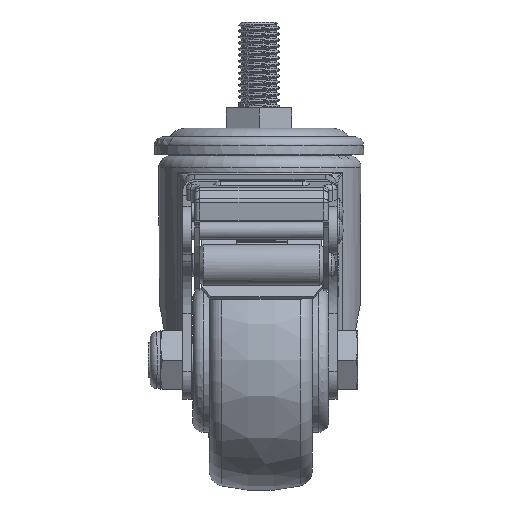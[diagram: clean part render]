
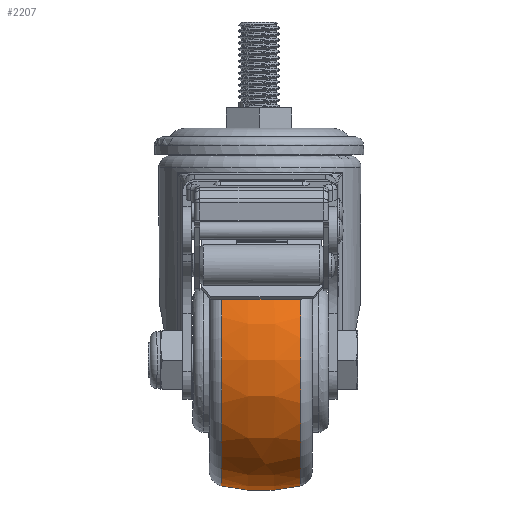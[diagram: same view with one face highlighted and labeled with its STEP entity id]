
A CAD part, left-side view. The second image highlights one B-rep face of the part: STEP entity #2207.
In plain terms, the highlighted free-form (B-spline) face has degree [3, 3] with [4, 7] control points.
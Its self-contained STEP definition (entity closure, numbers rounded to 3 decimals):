
#56=(
BOUNDED_SURFACE()
B_SPLINE_SURFACE(3,3,((#37746,#37747,#37748,#37749,#37750,#37751,#37752),
(#37753,#37754,#37755,#37756,#37757,#37758,#37759),(#37760,#37761,#37762,
#37763,#37764,#37765,#37766),(#37767,#37768,#37769,#37770,#37771,#37772,
#37773)),.UNSPECIFIED.,.F.,.T.,.F.)
B_SPLINE_SURFACE_WITH_KNOTS((4,4),(1,3,3,3,1),(0.,1.),(-0.5,0.,0.5,1.,1.5),
 .UNSPECIFIED.)
GEOMETRIC_REPRESENTATION_ITEM()
RATIONAL_B_SPLINE_SURFACE(((1.,0.333,0.333,1.,0.333,
0.333,1.),(0.982,0.327,0.327,
0.982,0.327,0.327,0.982),
(0.982,0.327,0.327,0.982,
0.327,0.327,0.982),(1.,0.333,
0.333,1.,0.333,0.333,1.)))
REPRESENTATION_ITEM('')
SURFACE()
);
#2207=ADVANCED_FACE('',(#5740,#5741),#56,.T.);
#5333=CIRCLE('',#18786,36.653);
#5334=CIRCLE('',#18788,36.653);
#5740=FACE_BOUND('',#6826,.T.);
#5741=FACE_BOUND('',#6827,.T.);
#6826=EDGE_LOOP('',(#11317));
#6827=EDGE_LOOP('',(#11318));
#11317=ORIENTED_EDGE('',*,*,#16102,.F.);
#11318=ORIENTED_EDGE('',*,*,#16101,.T.);
#13666=VERTEX_POINT('',#37742);
#13667=VERTEX_POINT('',#37745);
#16101=EDGE_CURVE('',#13666,#13666,#5333,.T.);
#16102=EDGE_CURVE('',#13667,#13667,#5334,.T.);
#18786=AXIS2_PLACEMENT_3D('',#37741,#22945,#22946);
#18788=AXIS2_PLACEMENT_3D('',#37744,#22949,#22950);
#22945=DIRECTION('',(0.003,-1.,0.));
#22946=DIRECTION('',(-1.,-0.003,0.));
#22949=DIRECTION('',(0.003,-1.,0.));
#22950=DIRECTION('',(-1.,-0.003,0.));
#37741=CARTESIAN_POINT('',(-34.098,11.037,-98.5));
#37742=CARTESIAN_POINT('',(-70.751,10.914,-98.5));
#37744=CARTESIAN_POINT('',(-34.021,-12.037,-98.5));
#37745=CARTESIAN_POINT('',(-70.673,-12.16,-98.5));
#37746=CARTESIAN_POINT('',(-70.673,-12.16,-98.5));
#37747=CARTESIAN_POINT('',(-70.673,-12.16,-171.805));
#37748=CARTESIAN_POINT('',(2.631,-11.914,-171.805));
#37749=CARTESIAN_POINT('',(2.631,-11.914,-98.5));
#37750=CARTESIAN_POINT('',(2.631,-11.914,-25.195));
#37751=CARTESIAN_POINT('',(-70.673,-12.16,-25.195));
#37752=CARTESIAN_POINT('',(-70.673,-12.16,-98.5));
#37753=CARTESIAN_POINT('',(-72.504,-4.545,-98.5));
#37754=CARTESIAN_POINT('',(-72.504,-4.545,-175.415));
#37755=CARTESIAN_POINT('',(4.411,-4.287,-175.415));
#37756=CARTESIAN_POINT('',(4.411,-4.287,-98.5));
#37757=CARTESIAN_POINT('',(4.411,-4.287,-21.585));
#37758=CARTESIAN_POINT('',(-72.504,-4.545,-21.585));
#37759=CARTESIAN_POINT('',(-72.504,-4.545,-98.5));
#37760=CARTESIAN_POINT('',(-72.53,3.286,-98.5));
#37761=CARTESIAN_POINT('',(-72.53,3.286,-175.415));
#37762=CARTESIAN_POINT('',(4.384,3.545,-175.415));
#37763=CARTESIAN_POINT('',(4.384,3.545,-98.5));
#37764=CARTESIAN_POINT('',(4.384,3.545,-21.585));
#37765=CARTESIAN_POINT('',(-72.53,3.286,-21.585));
#37766=CARTESIAN_POINT('',(-72.53,3.286,-98.5));
#37767=CARTESIAN_POINT('',(-70.751,10.914,-98.5));
#37768=CARTESIAN_POINT('',(-70.751,10.914,-171.805));
#37769=CARTESIAN_POINT('',(2.554,11.16,-171.805));
#37770=CARTESIAN_POINT('',(2.554,11.16,-98.5));
#37771=CARTESIAN_POINT('',(2.554,11.16,-25.195));
#37772=CARTESIAN_POINT('',(-70.751,10.914,-25.195));
#37773=CARTESIAN_POINT('',(-70.751,10.914,-98.5));
